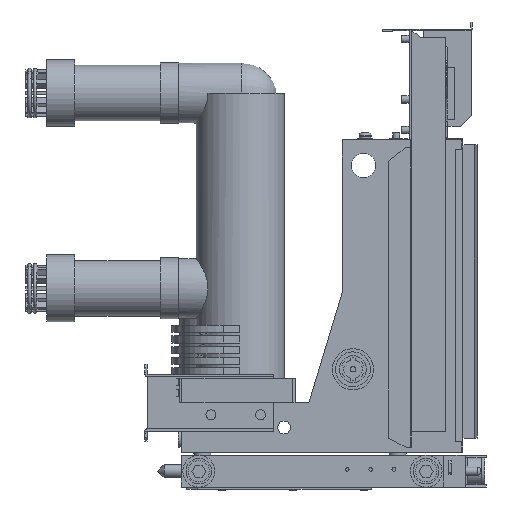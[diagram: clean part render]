
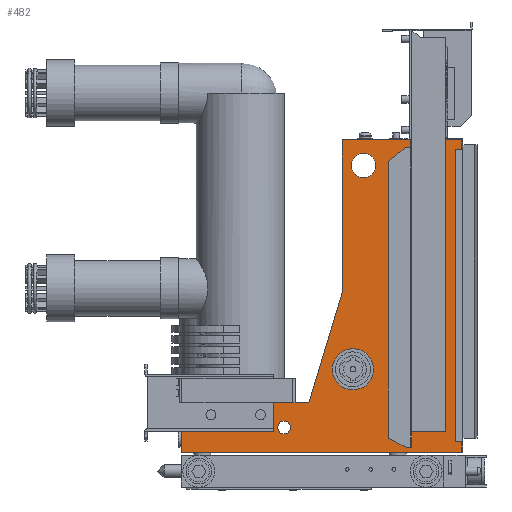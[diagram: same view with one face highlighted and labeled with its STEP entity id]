
A CAD part, front view. The second image highlights one B-rep face of the part: STEP entity #482.
In plain terms, the highlighted planar face has unit normal (0, -1, 0).
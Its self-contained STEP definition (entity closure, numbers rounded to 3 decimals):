
#482=ADVANCED_FACE('',(#44690,#44692,#44694,#44696),#44698,.F.);
#44690=FACE_BOUND('',#44691,.T.);
#44691=EDGE_LOOP('',(#82338,#82339,#82340,#82341,#82342,#82343,#82344,#82345,#82346,
#82347,#82348,#82349,#82350,#82351,#82352,#82353,#82354,#82355,#82356,#82357,#82358,
#82359));
#44692=FACE_BOUND('',#44693,.T.);
#44693=EDGE_LOOP('',(#82360));
#44694=FACE_BOUND('',#44695,.T.);
#44695=EDGE_LOOP('',(#82361));
#44696=FACE_BOUND('',#44697,.T.);
#44697=EDGE_LOOP('',(#82362));
#44698=PLANE('',#44699);
#44699=AXIS2_PLACEMENT_3D('',#44700,#44701,#44702);
#44700=CARTESIAN_POINT('',(0.,-220.,0.));
#44701=DIRECTION('',(0.,1.,0.));
#44702=DIRECTION('',(-1.,0.,0.));
#82338=ORIENTED_EDGE('',*,*,#115320,.F.);
#82339=ORIENTED_EDGE('',*,*,#115321,.F.);
#82340=ORIENTED_EDGE('',*,*,#115322,.F.);
#82341=ORIENTED_EDGE('',*,*,#115323,.F.);
#82342=ORIENTED_EDGE('',*,*,#115324,.F.);
#82343=ORIENTED_EDGE('',*,*,#115325,.F.);
#82344=ORIENTED_EDGE('',*,*,#115326,.F.);
#82345=ORIENTED_EDGE('',*,*,#115327,.F.);
#82346=ORIENTED_EDGE('',*,*,#115328,.F.);
#82347=ORIENTED_EDGE('',*,*,#115329,.F.);
#82348=ORIENTED_EDGE('',*,*,#115330,.F.);
#82349=ORIENTED_EDGE('',*,*,#115331,.F.);
#82350=ORIENTED_EDGE('',*,*,#115332,.F.);
#82351=ORIENTED_EDGE('',*,*,#115333,.F.);
#82352=ORIENTED_EDGE('',*,*,#115249,.F.);
#82353=ORIENTED_EDGE('',*,*,#115334,.F.);
#82354=ORIENTED_EDGE('',*,*,#115335,.F.);
#82355=ORIENTED_EDGE('',*,*,#115306,.F.);
#82356=ORIENTED_EDGE('',*,*,#115336,.F.);
#82357=ORIENTED_EDGE('',*,*,#115337,.F.);
#82358=ORIENTED_EDGE('',*,*,#115338,.F.);
#82359=ORIENTED_EDGE('',*,*,#115339,.F.);
#82360=ORIENTED_EDGE('',*,*,#115340,.T.);
#82361=ORIENTED_EDGE('',*,*,#115341,.T.);
#82362=ORIENTED_EDGE('',*,*,#115342,.F.);
#115249=EDGE_CURVE('',#128904,#128906,#128907,.T.);
#115306=EDGE_CURVE('',#129011,#128913,#129013,.T.);
#115320=EDGE_CURVE('',#129040,#129041,#129042,.T.);
#115321=EDGE_CURVE('',#129043,#129040,#129044,.T.);
#115322=EDGE_CURVE('',#129045,#129043,#129046,.T.);
#115323=EDGE_CURVE('',#129047,#129045,#129048,.T.);
#115324=EDGE_CURVE('',#129049,#129047,#129050,.T.);
#115325=EDGE_CURVE('',#129051,#129049,#129052,.T.);
#115326=EDGE_CURVE('',#129053,#129051,#129054,.T.);
#115327=EDGE_CURVE('',#129055,#129053,#129056,.T.);
#115328=EDGE_CURVE('',#129057,#129055,#129058,.T.);
#115329=EDGE_CURVE('',#129059,#129057,#129060,.F.);
#115330=EDGE_CURVE('',#129061,#129059,#129062,.F.);
#115331=EDGE_CURVE('',#129063,#129061,#129064,.T.);
#115332=EDGE_CURVE('',#129065,#129063,#129066,.T.);
#115333=EDGE_CURVE('',#128906,#129065,#129067,.T.);
#115334=EDGE_CURVE('',#129068,#128904,#129069,.T.);
#115335=EDGE_CURVE('',#128913,#129068,#129070,.T.);
#115336=EDGE_CURVE('',#129071,#129011,#129072,.T.);
#115337=EDGE_CURVE('',#129073,#129071,#129074,.T.);
#115338=EDGE_CURVE('',#129075,#129073,#129076,.T.);
#115339=EDGE_CURVE('',#129041,#129075,#129077,.T.);
#115340=EDGE_CURVE('',#129078,#129078,#129079,.T.);
#115341=EDGE_CURVE('',#129080,#129080,#129081,.T.);
#115342=EDGE_CURVE('',#129082,#129082,#129083,.F.);
#128904=VERTEX_POINT('',#151821);
#128906=VERTEX_POINT('',#151825);
#128907=LINE('',#151826,#151827);
#128913=VERTEX_POINT('',#151840);
#129011=VERTEX_POINT('',#152053);
#129013=LINE('',#152057,#152058);
#129040=VERTEX_POINT('',#152113);
#129041=VERTEX_POINT('',#152114);
#129042=LINE('',#152115,#152116);
#129043=VERTEX_POINT('',#152118);
#129044=LINE('',#152119,#152120);
#129045=VERTEX_POINT('',#152122);
#129046=LINE('',#152123,#152124);
#129047=VERTEX_POINT('',#152126);
#129048=LINE('',#152127,#152128);
#129049=VERTEX_POINT('',#152130);
#129050=LINE('',#152131,#152132);
#129051=VERTEX_POINT('',#152134);
#129052=LINE('',#152135,#152136);
#129053=VERTEX_POINT('',#152138);
#129054=LINE('',#152139,#152140);
#129055=VERTEX_POINT('',#152142);
#129056=LINE('',#152143,#152144);
#129057=VERTEX_POINT('',#152146);
#129058=LINE('',#152147,#152148);
#129059=VERTEX_POINT('',#152150);
#129060=LINE('',#152151,#152152);
#129061=VERTEX_POINT('',#152154);
#129062=LINE('',#152155,#152156);
#129063=VERTEX_POINT('',#152158);
#129064=LINE('',#152159,#152160);
#129065=VERTEX_POINT('',#152162);
#129066=LINE('',#152163,#152164);
#129067=LINE('',#152166,#152167);
#129068=VERTEX_POINT('',#152169);
#129069=LINE('',#152170,#152171);
#129070=LINE('',#152173,#152174);
#129071=VERTEX_POINT('',#152176);
#129072=LINE('',#152177,#152178);
#129073=VERTEX_POINT('',#152180);
#129074=LINE('',#152181,#152182);
#129075=VERTEX_POINT('',#152184);
#129076=LINE('',#152185,#152186);
#129077=LINE('',#152188,#152189);
#129078=VERTEX_POINT('',#152191);
#129079=CIRCLE('',#152192,17.);
#129080=VERTEX_POINT('',#152196);
#129081=CIRCLE('',#152197,9.);
#129082=VERTEX_POINT('',#152201);
#129083=CIRCLE('',#152202,29.);
#151821=CARTESIAN_POINT('',(-265.,-220.,70.));
#151825=CARTESIAN_POINT('',(-215.,-220.,70.));
#151826=CARTESIAN_POINT('',(-265.,-220.,70.));
#151827=VECTOR('',#151828,1.);
#151828=DIRECTION('',(1.,0.,0.));
#151840=CARTESIAN_POINT('',(-395.,-220.,30.));
#152053=CARTESIAN_POINT('',(-395.,-220.,0.));
#152057=CARTESIAN_POINT('',(-395.,-220.,0.));
#152058=VECTOR('',#152059,1.);
#152059=DIRECTION('',(0.,0.,1.));
#152113=CARTESIAN_POINT('',(0.,-220.,427.));
#152114=CARTESIAN_POINT('',(-8.,-220.,427.));
#152115=CARTESIAN_POINT('',(0.,-220.,427.));
#152116=VECTOR('',#152117,1.);
#152117=DIRECTION('',(-1.,0.,0.));
#152118=CARTESIAN_POINT('',(0.,-220.,440.));
#152119=CARTESIAN_POINT('',(0.,-220.,440.));
#152120=VECTOR('',#152121,1.);
#152121=DIRECTION('',(0.,0.,-1.));
#152122=CARTESIAN_POINT('',(-70.,-220.,440.));
#152123=CARTESIAN_POINT('',(-70.,-220.,440.));
#152124=VECTOR('',#152125,1.);
#152125=DIRECTION('',(1.,0.,0.));
#152126=CARTESIAN_POINT('',(-70.,-220.,7.));
#152127=CARTESIAN_POINT('',(-70.,-220.,7.));
#152128=VECTOR('',#152129,1.);
#152129=DIRECTION('',(0.,0.,1.));
#152130=CARTESIAN_POINT('',(-78.,-220.,7.));
#152131=CARTESIAN_POINT('',(-78.,-220.,7.));
#152132=VECTOR('',#152133,1.);
#152133=DIRECTION('',(1.,0.,0.));
#152134=CARTESIAN_POINT('',(-103.,-220.,20.));
#152135=CARTESIAN_POINT('',(-103.,-220.,20.));
#152136=VECTOR('',#152137,1.);
#152137=DIRECTION('',(0.887,0.,-0.461));
#152138=CARTESIAN_POINT('',(-103.,-220.,410.));
#152139=CARTESIAN_POINT('',(-103.,-220.,410.));
#152140=VECTOR('',#152141,1.);
#152141=DIRECTION('',(0.,0.,-1.));
#152142=CARTESIAN_POINT('',(-78.,-220.,430.));
#152143=CARTESIAN_POINT('',(-78.,-220.,430.));
#152144=VECTOR('',#152145,1.);
#152145=DIRECTION('',(-0.781,0.,-0.625));
#152146=CARTESIAN_POINT('',(-72.,-220.,430.));
#152147=CARTESIAN_POINT('',(-72.,-220.,430.));
#152148=VECTOR('',#152149,1.);
#152149=DIRECTION('',(-1.,0.,0.));
#152150=CARTESIAN_POINT('',(-72.,-220.,440.));
#152151=CARTESIAN_POINT('',(-72.,-220.,430.));
#152152=VECTOR('',#152153,1.);
#152153=DIRECTION('',(0.,0.,1.));
#152154=CARTESIAN_POINT('',(-74.,-220.,440.));
#152155=CARTESIAN_POINT('',(-72.,-220.,440.));
#152156=VECTOR('',#152157,1.);
#152157=DIRECTION('',(-1.,0.,0.));
#152158=CARTESIAN_POINT('',(-168.,-220.,440.));
#152159=CARTESIAN_POINT('',(-168.,-220.,440.));
#152160=VECTOR('',#152161,1.);
#152161=DIRECTION('',(1.,0.,0.));
#152162=CARTESIAN_POINT('',(-168.,-220.,225.));
#152163=CARTESIAN_POINT('',(-168.,-220.,225.));
#152164=VECTOR('',#152165,1.);
#152165=DIRECTION('',(0.,0.,1.));
#152166=CARTESIAN_POINT('',(-215.,-220.,70.));
#152167=VECTOR('',#152168,1.);
#152168=DIRECTION('',(0.29,0.,0.957));
#152169=CARTESIAN_POINT('',(-265.,-220.,30.));
#152170=CARTESIAN_POINT('',(-265.,-220.,30.));
#152171=VECTOR('',#152172,1.);
#152172=DIRECTION('',(0.,0.,1.));
#152173=CARTESIAN_POINT('',(-395.,-220.,30.));
#152174=VECTOR('',#152175,1.);
#152175=DIRECTION('',(1.,0.,0.));
#152176=CARTESIAN_POINT('',(0.,-220.,0.));
#152177=CARTESIAN_POINT('',(0.,-220.,0.));
#152178=VECTOR('',#152179,1.);
#152179=DIRECTION('',(-1.,0.,0.));
#152180=CARTESIAN_POINT('',(0.,-220.,15.));
#152181=CARTESIAN_POINT('',(0.,-220.,15.));
#152182=VECTOR('',#152183,1.);
#152183=DIRECTION('',(0.,0.,-1.));
#152184=CARTESIAN_POINT('',(-8.,-220.,15.));
#152185=CARTESIAN_POINT('',(-8.,-220.,15.));
#152186=VECTOR('',#152187,1.);
#152187=DIRECTION('',(1.,0.,0.));
#152188=CARTESIAN_POINT('',(-8.,-220.,427.));
#152189=VECTOR('',#152190,1.);
#152190=DIRECTION('',(0.,0.,-1.));
#152191=CARTESIAN_POINT('',(-121.477,-220.,400.));
#152192=AXIS2_PLACEMENT_3D('',#152193,#152194,#152195);
#152193=CARTESIAN_POINT('',(-138.,-220.,404.));
#152194=DIRECTION('',(0.,1.,0.));
#152195=DIRECTION('',(-1.,0.,0.));
#152196=CARTESIAN_POINT('',(-259.,-220.,35.));
#152197=AXIS2_PLACEMENT_3D('',#152198,#152199,#152200);
#152198=CARTESIAN_POINT('',(-250.,-220.,35.));
#152199=DIRECTION('',(0.,1.,0.));
#152200=DIRECTION('',(-1.,0.,0.));
#152201=CARTESIAN_POINT('',(-182.,-220.,117.));
#152202=AXIS2_PLACEMENT_3D('',#152203,#152204,#152205);
#152203=CARTESIAN_POINT('',(-153.,-220.,117.));
#152204=DIRECTION('',(0.,1.,0.));
#152205=DIRECTION('',(-1.,0.,0.));
